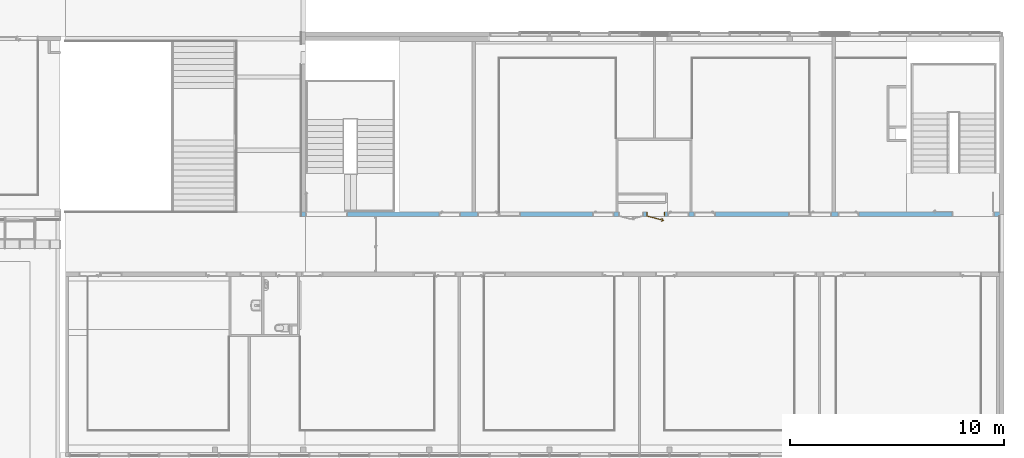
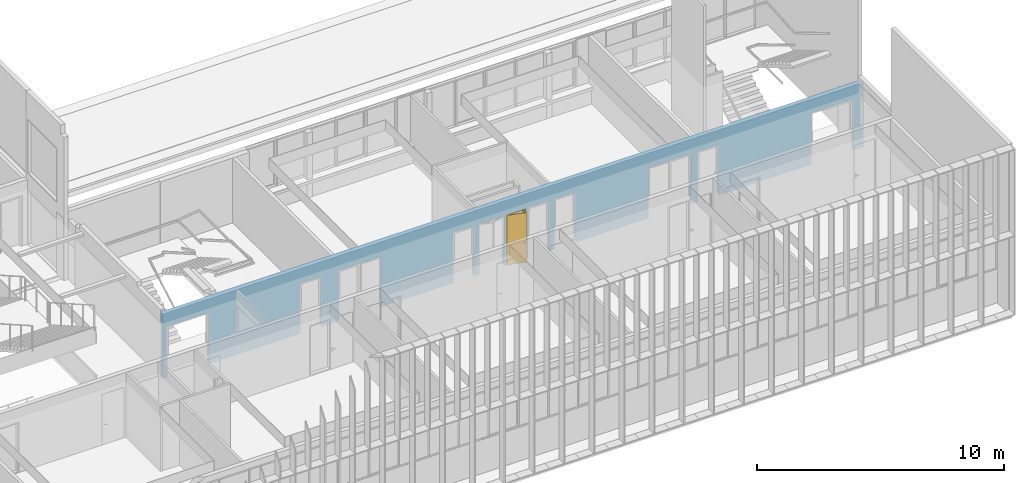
# One storey, part 88 of 106: 1 door, 13 openings, plus 1 element that does not belong to this part.
"""IFC2X3 building model written with IfcOpenShell, lengths in centimetres."""

import ifcopenshell
import ifcopenshell.guid

model = None  # the IFC model being written
_history = None  # IfcOwnerHistory: only IFC2X3 demands one
_inside = {}  # id of a spatial element -> (the spatial element, [elements in it])
_under = {}  # id of a project, library or spatial element -> (it, [spatial elements below it])
_declared = {}  # id of a project -> (the project, [libraries it declares])
_typed = {}  # id of a type object -> (the type object, [elements of that type])
_made_of = {}  # id of a material, layer set ... -> (it, [elements and type objects made of it])


def new_model(schema):
    """Start an empty IFC model of exactly this schema.

    Asked for "IFC4X3", IfcOpenShell would pick the latest addendum, in which some entities
    have other attributes; the version numbers below select the first issue.
    IFC2X3 requires an IfcOwnerHistory on every rooted entity: one is made here for all.
    """
    global model, _history
    if schema == "IFC4X3":
        model = ifcopenshell.file(schema_version=(4, 3, 0, 0))
    else:
        model = ifcopenshell.file(schema=schema)
    _inside.clear()
    _under.clear()
    _declared.clear()
    _typed.clear()
    _made_of.clear()
    _history = None
    if model.schema == "IFC2X3":
        org = make("IfcOrganization", Name="unknown")
        user = make(
            "IfcPersonAndOrganization",
            ThePerson=make("IfcPerson", FamilyName="unknown"),
            TheOrganization=org,
        )
        app = make(
            "IfcApplication",
            ApplicationDeveloper=org,
            Version="unknown",
            ApplicationFullName="unknown",
            ApplicationIdentifier="unknown",
        )
        _history = make(
            "IfcOwnerHistory",
            OwningUser=user,
            OwningApplication=app,
            ChangeAction="ADDED",
            CreationDate=0,
        )
    return model


def make(cls, **values):
    """One entity of the class cls with the attributes given. An attribute that is None is left unset."""
    return model.create_entity(
        cls, **{name: value for name, value in values.items() if value is not None}
    )


def entity(cls, *values):
    """Any entity or typed value of the class cls, its attributes in the order of the schema. None: left unset."""
    e = model.create_entity(cls)
    for i, value in enumerate(values):
        if value is not None:
            e[i] = value
    return e


def rooted(cls, **values):
    """An entity with a GlobalId (a new one), such as an element, a storey or a relation."""
    return make(cls, GlobalId=ifcopenshell.guid.new(), OwnerHistory=_history, **values)


def si_unit(unit_type, name, prefix=None):
    """IfcSIUnit, for example si_unit("LENGTHUNIT", "METRE", prefix="MILLI")."""
    return make("IfcSIUnit", UnitType=unit_type, Prefix=prefix, Name=name)


def converted_unit(unit_type, name, factor, base, dimensions=None, offset=None):
    """IfcConversionBasedUnit, such as the inch: factor (a typed value) times the base unit."""
    return make(
        "IfcConversionBasedUnit"
        if offset is None
        else "IfcConversionBasedUnitWithOffset",
        ConversionOffset=offset,
        Dimensions=None
        if dimensions is None
        else entity("IfcDimensionalExponents", *dimensions),
        UnitType=unit_type,
        Name=name,
        ConversionFactor=make(
            "IfcMeasureWithUnit", ValueComponent=factor, UnitComponent=base
        ),
    )


def derived_unit(unit_type, elements):
    """IfcDerivedUnit: a product of units, each with its exponent."""
    return make(
        "IfcDerivedUnit",
        Elements=[
            make("IfcDerivedUnitElement", Unit=unit, Exponent=power)
            for unit, power in elements
        ],
        UnitType=unit_type,
    )


def assignment(units):
    """IfcUnitAssignment: the units of a project."""
    return None if units is None else make("IfcUnitAssignment", Units=units)


def point(xyz):
    """IfcCartesianPoint."""
    return None if xyz is None else make("IfcCartesianPoint", Coordinates=xyz)


def direction(xyz):
    """IfcDirection."""
    return None if xyz is None else make("IfcDirection", DirectionRatios=xyz)


def frame(location, z_axis=None, x_axis=None):
    """IfcAxis2Placement3D, a coordinate frame: its origin and axes. An axis left out is left unset."""
    return make(
        "IfcAxis2Placement3D",
        Location=point(location),
        Axis=direction(z_axis),
        RefDirection=direction(x_axis),
    )


def frame_2d(location, x_axis=None):
    """IfcAxis2Placement2D, a coordinate frame in the plane: its origin and x axis."""
    return make(
        "IfcAxis2Placement2D", Location=point(location), RefDirection=direction(x_axis)
    )


def origin():
    """The frame at (0, 0, 0) with its axes left unset."""
    return frame((0.0, 0.0, 0.0))


def place(relative_to, where):
    """IfcLocalPlacement: puts the frame where relative to a parent placement (None: the world)."""
    return make(
        "IfcLocalPlacement", PlacementRelTo=relative_to, RelativePlacement=where
    )


def context(
    kind, dimensions, precision=None, world=None, true_north=None, identifier=None
):
    """IfcGeometricRepresentationContext, for example the 3D "Model" context."""
    return make(
        "IfcGeometricRepresentationContext",
        ContextIdentifier=identifier,
        ContextType=kind,
        CoordinateSpaceDimension=dimensions,
        Precision=precision,
        WorldCoordinateSystem=world,
        TrueNorth=true_north,
    )


def subcontext(parent, identifier, kind, view, scale=None):
    """IfcGeometricRepresentationSubContext, for example "Body" below "Model"."""
    return make(
        "IfcGeometricRepresentationSubContext",
        ContextIdentifier=identifier,
        ContextType=kind,
        ParentContext=parent,
        TargetScale=scale,
        TargetView=view,
    )


def project(units=None, contexts=None):
    """IfcProject with its units and contexts."""
    return rooted(
        "IfcProject",
        Name="project",
        RepresentationContexts=contexts,
        UnitsInContext=assignment(units),
    )


def spatial(cls, under=None, at=None, **own):
    """A site, building, storey or space (cls), placed at a placement, below another one or the project."""
    s = rooted(cls, ObjectPlacement=at, **own)
    if under is not None:
        _under.setdefault(under.id(), (under, []))[1].append(s)
    return s


def polyline(points):
    """IfcPolyline through the points."""
    return make("IfcPolyline", Points=[point(p) for p in points])


def profile(cls, at=None, kind="AREA", **sizes):
    """A parametric profile (cls). Its sizes go by their IFC names, for example OverallWidth=200.0."""
    return make(cls, ProfileType=kind, Position=at, **sizes)


def rectangle(**sizes):
    """IfcRectangleProfileDef."""
    return profile("IfcRectangleProfileDef", **sizes)


def extrude(swept, where, along, depth):
    """IfcExtrudedAreaSolid: the profile swept, set in the frame where, extruded along a direction by depth."""
    return make(
        "IfcExtrudedAreaSolid",
        SweptArea=swept,
        Position=where,
        ExtrudedDirection=direction(along),
        Depth=depth,
    )


def clip(a, b, op="DIFFERENCE"):
    """IfcBooleanClippingResult: the solid a cut by the half space b."""
    return make(
        "IfcBooleanClippingResult", Operator=op, FirstOperand=a, SecondOperand=b
    )


def bounded_halfspace(plane, agree, where, boundary):
    """IfcPolygonalBoundedHalfSpace: a half space limited to a polygon's prism."""
    return make(
        "IfcPolygonalBoundedHalfSpace",
        BaseSurface=make("IfcPlane", Position=plane),
        AgreementFlag=agree,
        Position=where,
        PolygonalBoundary=boundary,
    )


def faces_of(points, faces, orient=None, outer=None):
    """IfcFace entities. A face is a list of loops; a loop is a list of indices into points, from 0.

    orient and outer hold one flag for each loop. By default every Orientation is true, the
    first loop of a face is its IfcFaceOuterBound and the others are IfcFaceBound.
    """
    made = []
    for i, loops in enumerate(faces):
        bounds = []
        for j, loop in enumerate(loops):
            is_outer = j == 0 if outer is None else outer[i][j]
            bounds.append(
                make(
                    "IfcFaceOuterBound" if is_outer else "IfcFaceBound",
                    Bound=make("IfcPolyLoop", Polygon=[points[k] for k in loop]),
                    Orientation=True if orient is None else orient[i][j],
                )
            )
        made.append(make("IfcFace", Bounds=bounds))
    return made


def faceted_brep(points, faces, orient=None, outer=None, voids=None):
    """IfcFacetedBrep: a solid bounded by flat faces; with voids (closed shells), ...WithVoids."""
    shared = [point(p) for p in points]
    hull = make("IfcClosedShell", CfsFaces=faces_of(shared, faces, orient, outer))
    if voids is None:
        return make("IfcFacetedBrep", Outer=hull)
    return make(
        "IfcFacetedBrepWithVoids",
        Outer=hull,
        Voids=[
            make(cls, CfsFaces=faces_of(shared, fs, o, b)) for cls, fs, o, b in voids
        ],
    )


def shape(context_of_items, identifier, shape_type, items):
    """IfcShapeRepresentation: the items that make up one representation, for example the "Body"."""
    return make(
        "IfcShapeRepresentation",
        ContextOfItems=context_of_items,
        RepresentationIdentifier=identifier,
        RepresentationType=shape_type,
        Items=items,
    )


def source(mapping_origin, context_of_items, identifier, shape_type, items):
    """IfcRepresentationMap: a shape defined once, which mapped items show again and again."""
    return make(
        "IfcRepresentationMap",
        MappingOrigin=mapping_origin,
        MappedRepresentation=shape(context_of_items, identifier, shape_type, items),
    )


def transform(
    local_origin,
    x_axis=None,
    y_axis=None,
    z_axis=None,
    scale=None,
    scale2=None,
    scale3=None,
    uniform=True,
):
    """IfcCartesianTransformationOperator3D, or its non-uniform kind. x_axis, y_axis, z_axis: its Axis1, 2, 3."""
    if uniform:
        return make(
            "IfcCartesianTransformationOperator3D",
            Axis1=direction(x_axis),
            Axis2=direction(y_axis),
            LocalOrigin=point(local_origin),
            Scale=scale,
            Axis3=direction(z_axis),
        )
    return make(
        "IfcCartesianTransformationOperator3DnonUniform",
        Axis1=direction(x_axis),
        Axis2=direction(y_axis),
        LocalOrigin=point(local_origin),
        Scale=scale,
        Axis3=direction(z_axis),
        Scale2=scale2,
        Scale3=scale3,
    )


def mapped(mapping_source, mapping_target):
    """IfcMappedItem: shows the shape of a source again, moved by a transform."""
    return make(
        "IfcMappedItem", MappingSource=mapping_source, MappingTarget=mapping_target
    )


def material(Name=None, Category=None):
    """IfcMaterial."""
    return make("IfcMaterial", Name=Name, Category=Category)


def material_list(materials):
    """IfcMaterialList."""
    return make("IfcMaterialList", Materials=materials)


def layer(
    of_material, thickness, ventilated=None, Name=None, Category=None, Priority=None
):
    """IfcMaterialLayer: one layer of a wall or slab, of a material (None: an air gap)."""
    return make(
        "IfcMaterialLayer",
        Material=of_material,
        LayerThickness=thickness,
        IsVentilated=ventilated,
        Name=Name,
        Category=Category,
        Priority=Priority,
    )


def layer_set(layers, Name=None):
    """IfcMaterialLayerSet."""
    return make("IfcMaterialLayerSet", MaterialLayers=layers, LayerSetName=Name)


def layer_usage(for_layer_set, set_direction, sense, offset, extent=None):
    """IfcMaterialLayerSetUsage: how a layer set lies in its element."""
    return make(
        "IfcMaterialLayerSetUsage",
        ForLayerSet=for_layer_set,
        LayerSetDirection=set_direction,
        DirectionSense=sense,
        OffsetFromReferenceLine=offset,
        ReferenceExtent=extent,
    )


def made_of(thing, what):
    """Note that an element or type object is made of a material, layer set ...; save() writes the relation."""
    if what is not None:
        _made_of.setdefault(what.id(), (what, []))[1].append(thing)
    return thing


def type_object(cls, material=None, **own):
    """A type object (cls), such as IfcWallType, which elements share."""
    return made_of(rooted(cls, **own), material)


def type_shapes(of_type, sources):
    """Give a type object the sources (RepresentationMaps) that its elements show as mapped items."""
    of_type.RepresentationMaps = sources


def element(
    cls,
    number,
    at=None,
    inside=None,
    cuts=None,
    type_object=None,
    material=None,
    context=None,
    identifier="Body",
    shape_type=None,
    held_by="IfcProductDefinitionShape",
    body=None,
    shapes=None,
    **own,
):
    """One element of the class cls, such as IfcWall. Its Tag is "e" and its number.

    at: its placement. inside: the storey or other place that contains it. cuts: it is an
    opening in that element (IfcRelVoidsElement). A single representation is given by context,
    identifier, shape_type and body (its items); several are given by shapes. held_by: the class
    of the entity that holds the representations. save() writes the other relations.
    """
    e = rooted(cls, Tag="e%d" % number, ObjectPlacement=at, **own)
    if body is not None:
        shapes = [shape(context, identifier, shape_type, body)]
    if shapes is not None:
        e.Representation = make(held_by, Representations=shapes)
    if inside is not None:
        _inside.setdefault(inside.id(), (inside, []))[1].append(e)
    if cuts is not None:
        rooted(
            "IfcRelVoidsElement", RelatingBuildingElement=cuts, RelatedOpeningElement=e
        )
    if type_object is not None:
        _typed.setdefault(type_object.id(), (type_object, []))[1].append(e)
    return made_of(e, material)


def fill(opening, filler):
    """IfcRelFillsElement: the door or window that sits in an opening."""
    return rooted(
        "IfcRelFillsElement",
        RelatingOpeningElement=opening,
        RelatedBuildingElement=filler,
    )


def aggregate(whole, parts):
    """IfcRelAggregates: a whole, such as a stair, and the parts it consists of."""
    return rooted("IfcRelAggregates", RelatingObject=whole, RelatedObjects=parts)


def save(model, path):
    """Write the relations noted so far, then the file.

    IfcRelAggregates (storeys below a building ...), IfcRelContainedInSpatialStructure (elements
    in a storey), IfcRelDefinesByType, IfcRelAssociatesMaterial and IfcRelDeclares: one each for
    every whole, place, type object, material and project.
    """
    for whole, parts in _under.values():
        aggregate(whole, parts)
    for where, things in _inside.values():
        rooted(
            "IfcRelContainedInSpatialStructure",
            RelatedElements=things,
            RelatingStructure=where,
        )
    for kind, things in _typed.values():
        rooted("IfcRelDefinesByType", RelatedObjects=things, RelatingType=kind)
    for what, things in _made_of.values():
        rooted("IfcRelAssociatesMaterial", RelatedObjects=things, RelatingMaterial=what)
    for by, libraries in _declared.values():
        rooted("IfcRelDeclares", RelatingContext=by, RelatedDefinitions=libraries)
    model.write(path)


model = new_model("IFC2X3")

# Units and contexts
model_context = context("Model", 3, precision=0.001, world=origin(), true_north=direction((6.12303176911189e-17, 1.0)))
body_context = subcontext(model_context, "Body", "Model", "MODEL_VIEW")
ifc_project = project(units=[si_unit("LENGTHUNIT", "METRE", prefix="CENTI"), si_unit("AREAUNIT", "SQUARE_METRE"), si_unit("VOLUMEUNIT", "CUBIC_METRE"), converted_unit("PLANEANGLEUNIT", "DEGREE", entity("IfcRatioMeasure", 0.0174532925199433), si_unit("PLANEANGLEUNIT", "RADIAN"), dimensions=[0, 0, 0, 0, 0, 0, 0]), si_unit("MASSUNIT", "GRAM", prefix="KILO"), derived_unit("MASSDENSITYUNIT", [(si_unit("MASSUNIT", "GRAM", prefix="KILO"), 1), (si_unit("LENGTHUNIT", "METRE"), -3)]), si_unit("TIMEUNIT", "SECOND"), si_unit("FREQUENCYUNIT", "HERTZ"), si_unit("THERMODYNAMICTEMPERATUREUNIT", "DEGREE_CELSIUS"), derived_unit("THERMALTRANSMITTANCEUNIT", [(si_unit("MASSUNIT", "GRAM", prefix="KILO"), 1), (si_unit("THERMODYNAMICTEMPERATUREUNIT", "KELVIN"), -1), (si_unit("TIMEUNIT", "SECOND"), -3)]), derived_unit("VOLUMETRICFLOWRATEUNIT", [(si_unit("LENGTHUNIT", "METRE"), 3), (si_unit("TIMEUNIT", "SECOND"), -1)]), si_unit("ELECTRICCURRENTUNIT", "AMPERE"), si_unit("ELECTRICVOLTAGEUNIT", "VOLT"), si_unit("POWERUNIT", "WATT"), si_unit("FORCEUNIT", "NEWTON", prefix="KILO"), si_unit("ILLUMINANCEUNIT", "LUX"), si_unit("LUMINOUSFLUXUNIT", "LUMEN"), si_unit("LUMINOUSINTENSITYUNIT", "CANDELA"), derived_unit("USERDEFINED", [(si_unit("MASSUNIT", "GRAM", prefix="KILO"), -1), (si_unit("LENGTHUNIT", "METRE"), -2), (si_unit("TIMEUNIT", "SECOND"), 3), (si_unit("LUMINOUSFLUXUNIT", "LUMEN"), 1)]), derived_unit("LINEARVELOCITYUNIT", [(si_unit("LENGTHUNIT", "METRE"), 1), (si_unit("TIMEUNIT", "SECOND"), -1)]), si_unit("PRESSUREUNIT", "PASCAL"), derived_unit("USERDEFINED", [(si_unit("LENGTHUNIT", "METRE"), -2), (si_unit("MASSUNIT", "GRAM", prefix="KILO"), 1), (si_unit("TIMEUNIT", "SECOND"), -2)])], contexts=[model_context])

# Site, building, storey
site_placement = place(None, frame((-2781.94577612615, 7442.24238424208, 0.0)))
site = spatial("IfcSite", under=ifc_project, at=site_placement, Name="Default", CompositionType="ELEMENT")
building_placement = place(site_placement, origin())
building = spatial("IfcBuilding", under=site, at=building_placement, CompositionType="ELEMENT")
storey_placement = place(building_placement, frame((0.0, 0.0, 422.0)))
storey = spatial("IfcBuildingStorey", under=building, at=storey_placement, Name="Toiture - Cuisine", CompositionType="ELEMENT", Elevation=421.999999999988)

# Wall, openings, door
ifc_material_1 = material(Name="01 - Maçonnerie")
ifc_layer = layer(ifc_material_1, 20.0)
ifc_layer_set = layer_set([ifc_layer], Name="Mur de base:04 - Structure - béton - 20cm")
ifc_layer_usage = layer_usage(ifc_layer_set, "AXIS2", "NEGATIVE", 10.0)
wall_type = type_object("IfcWallType", Name="Mur de base:04 - Structure - béton - 20cm", PredefinedType="STANDARD", material=ifc_layer_set)
wall_placement = place(building_placement, frame((-3667.99987968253, -1920.07903364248, 422.0)))
wall = element("IfcWallStandardCase", 1, at=wall_placement, inside=storey, type_object=wall_type, material=ifc_layer_usage, Name="Mur de base:04 - Structure - béton - 20cm", ObjectType="Mur de base:04 - Structure - béton - 20cm", context=body_context, shape_type="Clipping", body=[
    clip(clip(extrude(rectangle(XDim=3277.99999684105, YDim=19.9999999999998, at=frame_2d((1638.99999842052, 6.21724893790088e-14), x_axis=(-1.0, 0.0))), origin(), (0.0, 0.0, 1.0), 321.0), bounded_halfspace(frame((0.0, -10.0, 321.0), z_axis=(0.0, 0.0, -1.0), x_axis=(0.0, 1.0, 0.0)), True, frame((0.0, -10.0, 321.0)), polyline([(0.0, 0.0), (20.0, 0.0), (20.0, 20.0), (0.0, 20.0), (0.0, 0.0)]))), bounded_halfspace(frame((458.699996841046, -10.0, 321.0), z_axis=(0.0, 0.0, -1.0), x_axis=(0.0, 1.0, 0.0)), True, frame((458.699996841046, -10.0, 321.0)), polyline([(0.0, 0.0), (2797.3, 0.0), (2799.29999999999, 0.0), (2799.29999999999, 10.0), (2799.29999999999, 20.0), (2034.0, 20.0), (2018.0, 20.0), (1914.0, 20.0), (1912.0, 20.0), (1363.8, 20.0), (1353.8, 20.0), (1249.8, 20.0), (1239.8, 20.0), (1149.8, 20.0), (1139.8, 20.0), (1019.8, 20.0), (1009.8, 20.0), (466.0, 20.0), (464.0, 20.0), (0.0, 20.0), (0.0, 0.0)]))),
])
opening_1_placement = place(wall_placement, frame((2502.69999684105, -10.0, 0.0)))
element("IfcOpeningElement", 2, at=opening_1_placement, cuts=wall, Name="Int. Simple:PP simple (0.93m x 2.50m):1", ObjectType="Opening", context=body_context, shape_type="SweptSolid", body=[
    extrude(rectangle(XDim=248.500000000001, YDim=99.9999999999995, at=frame_2d((124.250000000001, 49.9999999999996), x_axis=(1.0, 0.0))), frame((0.0, 0.0, 0.0), z_axis=(0.0, 1.0, 0.0), x_axis=(0.0, 0.0, 1.0)), (0.0, 0.0, 1.0), 20.0),
])
opening_2_placement = place(wall_placement, frame((2372.69999684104, -10.0, 0.0)))
element("IfcOpeningElement", 3, at=opening_2_placement, cuts=wall, Name="Int. Simple:PV (0.93m x 2.50m):1", ObjectType="Opening", context=body_context, shape_type="SweptSolid", body=[
    extrude(rectangle(XDim=248.500000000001, YDim=99.9999999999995, at=frame_2d((124.250000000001, 49.9999999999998), x_axis=(1.0, 0.0))), frame((0.0, 0.0, 0.0), z_axis=(0.0, 1.0, 0.0), x_axis=(0.0, 0.0, 1.0)), (0.0, 0.0, 1.0), 20.0),
])
opening_3_placement = place(wall_placement, frame((1832.49999684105, -10.0, 0.0)))
element("IfcOpeningElement", 4, at=opening_3_placement, cuts=wall, Name="Int. Simple:PV (0.93m x 2.50m):1", ObjectType="Opening", context=body_context, shape_type="SweptSolid", body=[
    extrude(rectangle(XDim=248.500000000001, YDim=99.9999999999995, at=frame_2d((124.250000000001, 49.9999999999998), x_axis=(1.0, 0.0))), frame((0.0, 0.0, 0.0), z_axis=(0.0, 1.0, 0.0), x_axis=(0.0, 0.0, 1.0)), (0.0, 0.0, 1.0), 20.0),
])
opening_4_placement = place(wall_placement, frame((1708.49999684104, -10.0, 0.0)))
element("IfcOpeningElement", 5, at=opening_4_placement, cuts=wall, Name="Int. Simple:PP simple (0.93m x 2.50m):1", ObjectType="Opening", context=body_context, shape_type="SweptSolid", body=[
    extrude(rectangle(XDim=248.500000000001, YDim=99.9999999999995, at=frame_2d((124.250000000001, 49.9999999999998), x_axis=(1.0, 0.0))), frame((0.0, 0.0, 0.0), z_axis=(0.0, 1.0, 0.0), x_axis=(0.0, 0.0, 1.0)), (0.0, 0.0, 1.0), 20.0),
])
opening_5_placement = place(wall_placement, frame((1358.49999684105, -10.0, 0.0)))
element("IfcOpeningElement", 6, at=opening_5_placement, cuts=wall, Name="Int. Simple:PV (0.93m x 2.50m):1", ObjectType="Opening", context=body_context, shape_type="SweptSolid", body=[
    extrude(rectangle(XDim=248.500000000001, YDim=99.9999999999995, at=frame_2d((124.250000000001, 49.9999999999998), x_axis=(1.0, 0.0))), frame((0.0, 0.0, 0.0), z_axis=(0.0, 1.0, 0.0), x_axis=(0.0, 0.0, 1.0)), (0.0, 0.0, 1.0), 20.0),
])
opening_6_placement = place(wall_placement, frame((822.699996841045, -10.0, 0.0)))
element("IfcOpeningElement", 7, at=opening_6_placement, cuts=wall, Name="Int. Simple:PV (0.93m x 2.50m):1", ObjectType="Opening", context=body_context, shape_type="SweptSolid", body=[
    extrude(rectangle(XDim=248.500000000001, YDim=99.9999999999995, at=frame_2d((124.250000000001, 49.9999999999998), x_axis=(1.0, 0.0))), frame((0.0, 0.0, 0.0), z_axis=(0.0, 1.0, 0.0), x_axis=(0.0, 0.0, 1.0)), (0.0, 0.0, 1.0), 20.0),
])
opening_7_placement = place(wall_placement, frame((642.699996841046, -10.0, 0.0)))
element("IfcOpeningElement", 8, at=opening_7_placement, cuts=wall, Name="Int. Simple:PP simple (0.93m x 2.50m):1", ObjectType="Opening", context=body_context, shape_type="SweptSolid", body=[
    extrude(rectangle(XDim=248.500000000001, YDim=99.9999999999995, at=frame_2d((124.250000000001, 49.9999999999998), x_axis=(1.0, 0.0))), frame((0.0, 0.0, 0.0), z_axis=(0.0, 1.0, 0.0), x_axis=(0.0, 0.0, 1.0)), (0.0, 0.0, 1.0), 20.0),
])
opening_8_placement = place(wall_placement, frame((2272.69999684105, -10.0, 0.0)))
element("IfcOpeningElement", 9, at=opening_8_placement, cuts=wall, Name="châssis intérieur vitré:châssis intérieur vitré (h=270) R+1:1", ObjectType="Opening", context=body_context, shape_type="SweptSolid", body=[
    extrude(rectangle(XDim=250.0, YDim=99.9999999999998, at=frame_2d((125.0, 49.9999999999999), x_axis=(1.0, 0.0))), frame((0.0, 0.0, 0.0), z_axis=(0.0, 1.0, 0.0), x_axis=(0.0, 0.0, 1.0)), (0.0, 0.0, 1.0), 20.0),
])
opening_9_placement = place(wall_placement, frame((922.699996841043, -10.0, 0.0)))
element("IfcOpeningElement", 10, at=opening_9_placement, cuts=wall, Name="châssis intérieur vitré:châssis intérieur vitré (h=270) R+1:1", ObjectType="Opening", context=body_context, shape_type="SweptSolid", body=[
    extrude(rectangle(XDim=250.0, YDim=99.9999999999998, at=frame_2d((125.0, 49.9999999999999), x_axis=(1.0, 0.0))), frame((0.0, 0.0, 0.0), z_axis=(0.0, 1.0, 0.0), x_axis=(0.0, 0.0, 1.0)), (0.0, 0.0, 1.0), 20.0),
])
opening_10_placement = place(wall_placement, frame((1697.0, 10.0, 0.0)))
opening_10 = element("IfcOpeningElement", 11, at=opening_10_placement, cuts=wall, Name="Int. Simple:PP Placard (0.80m x 2.50m):1", ObjectType="Opening", context=body_context, shape_type="SweptSolid", body=[
    extrude(rectangle(XDim=248.500000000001, YDim=86.9999999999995, at=frame_2d((124.250000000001, 43.4999999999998), x_axis=(1.0, 0.0))), frame((0.0, 0.0, 0.0), z_axis=(0.0, -1.0, 0.0), x_axis=(0.0, 0.0, 1.0)), (0.0, 0.0, 1.0), 20.0),
])
opening_11_placement = place(wall_placement, frame((1597.0, 10.0, 0.0)))
element("IfcOpeningElement", 12, at=opening_11_placement, cuts=wall, Name="Int. Double:PP Placard (1.10m x 2.50m):1", ObjectType="Opening", context=body_context, shape_type="SweptSolid", body=[
    extrude(rectangle(XDim=248.500000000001, YDim=117.0, at=frame_2d((124.250000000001, 58.5000000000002), x_axis=(1.0, 0.0))), frame((0.0, 0.0, 0.0), z_axis=(0.0, -1.0, 0.0), x_axis=(0.0, 0.0, 1.0)), (0.0, 0.0, 1.0), 20.0),
])
opening_12_placement = place(wall_placement, frame((3035.69999684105, -10.0, 0.0)))
element("IfcOpeningElement", 13, at=opening_12_placement, cuts=wall, Name="Int. Double:PP (1.90m x 2.50m):1", ObjectType="Opening", context=body_context, shape_type="SweptSolid", body=[
    extrude(rectangle(XDim=253.500000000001, YDim=197.0, at=frame_2d((126.750000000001, 98.5000000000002), x_axis=(1.0, 0.0))), frame((0.0, 0.0, 0.0), z_axis=(0.0, 1.0, 0.0), x_axis=(0.0, 0.0, 1.0)), (0.0, 0.0, 1.0), 20.0),
])
opening_13_placement = place(wall_placement, frame((20.0, -10.0, 0.0)))
element("IfcOpeningElement", 14, at=opening_13_placement, cuts=wall, Name="Int. Double:PP (1.90m x 2.50m):1", ObjectType="Opening", context=body_context, shape_type="SweptSolid", body=[
    extrude(rectangle(XDim=253.500000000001, YDim=197.0, at=frame_2d((126.750000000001, 98.5), x_axis=(1.0, 0.0))), frame((0.0, 0.0, 0.0), z_axis=(0.0, 1.0, 0.0), x_axis=(0.0, 0.0, 1.0)), (0.0, 0.0, 1.0), 20.0),
])
ifc_material_2 = material(Name="Finition Peinture - Blanc satiné")
ifc_material_3 = material(Name="Bois - Panneau de porte")
ifc_material_4 = material(Name="Bois - Cadre de porte")
ifc_material_list_1 = material_list([ifc_material_2, ifc_material_3, ifc_material_4])
ifc_material_list_2 = material_list([ifc_material_2, ifc_material_3, ifc_material_4])
door_style = type_object("IfcDoorStyle", Name="PP Placard (0.80m x 2.50m)", ConstructionType="NOTDEFINED", OperationType="SINGLE_SWING_RIGHT", ParameterTakesPrecedence=False, Sizeable=False, material=ifc_material_list_2)
shared_shape = source(origin(), body_context, "Body", "Brep", [
    faceted_brep([(83.7809532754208, -20.1532103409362, 87.0), (83.7809532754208, -20.1532103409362, 108.0), (82.8491016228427, -19.9035214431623, 108.399601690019), (81.8491016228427, -19.6355722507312, 108.535898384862), (80.8491016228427, -19.3676230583, 108.399601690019), (79.9172499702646, -19.1179341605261, 108.0), (79.9172499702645, -19.1179341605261, 87.0), (80.8491016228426, -19.3676230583, 86.6003983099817), (81.8491016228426, -19.6355722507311, 86.464101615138), (82.8491016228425, -19.9035214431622, 86.6003983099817), (83.910362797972, -19.6702474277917, 108.0), (83.9103627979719, -19.6702474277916, 87.0), (82.9785111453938, -19.4205585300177, 86.6003983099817), (81.9785111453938, -19.1526093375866, 86.464101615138), (80.9785111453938, -18.8846601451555, 86.6003983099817), (80.0466594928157, -18.6349712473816, 87.0), (80.0466594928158, -18.6349712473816, 108.0), (80.978511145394, -18.8846601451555, 108.399601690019), (81.9785111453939, -19.1526093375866, 108.535898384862), (82.9785111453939, -19.4205585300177, 108.399601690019)], [[[0, 1, 2, 3, 4, 5, 6, 7, 8, 9]], [[10, 11, 12, 13, 14, 15, 16, 17, 18, 19]], [[9, 12, 11, 0]], [[8, 13, 12, 9]], [[7, 14, 13, 8]], [[7, 6, 15, 14]], [[15, 6, 5, 16]], [[4, 17, 16, 5]], [[3, 18, 17, 4]], [[2, 19, 18, 3]], [[2, 1, 10, 19]], [[11, 10, 1, 0]]]),
    faceted_brep([(84.9456389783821, -15.8065441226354, 87.0), (84.9456389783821, -15.8065441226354, 108.0), (84.013787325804, -15.5568552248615, 108.399601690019), (83.013787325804, -15.2889060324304, 108.535898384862), (82.0137873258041, -15.0209568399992, 108.399601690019), (81.0819356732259, -14.7712679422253, 108.0), (81.0819356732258, -14.7712679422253, 87.0), (82.0137873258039, -15.0209568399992, 86.6003983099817), (83.0137873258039, -15.2889060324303, 86.464101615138), (84.0137873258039, -15.5568552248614, 86.6003983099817), (83.1431968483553, -14.8059431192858, 108.535898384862), (84.1431968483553, -15.0738923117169, 108.399601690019), (85.0750485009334, -15.3235812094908, 108.0), (85.0750485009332, -15.3235812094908, 87.0), (84.1431968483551, -15.0738923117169, 86.6003983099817), (83.1431968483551, -14.8059431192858, 86.464101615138), (82.1431968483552, -14.5379939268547, 86.6003983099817), (81.211345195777, -14.2883050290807, 87.0), (81.2113451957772, -14.2883050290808, 108.0), (82.1431968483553, -14.5379939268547, 108.399601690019)], [[[0, 1, 2, 3, 4, 5, 6, 7, 8, 9]], [[10, 11, 12, 13, 14, 15, 16, 17, 18, 19]], [[4, 19, 18, 5]], [[3, 10, 19, 4]], [[2, 11, 10, 3]], [[2, 1, 12, 11]], [[13, 12, 1, 0]], [[9, 14, 13, 0]], [[8, 15, 14, 9]], [[7, 16, 15, 8]], [[7, 6, 17, 16]], [[17, 6, 5, 18]]]),
    faceted_brep([(81.6534727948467, -19.5831536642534, 100.778044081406), (82.0447304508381, -19.6879908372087, 100.778044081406), (82.4286571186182, -19.7908636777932, 100.699999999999), (82.4286571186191, -19.7908636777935, 99.2999999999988), (82.0447304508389, -19.687990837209, 99.221955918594), (81.6534727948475, -19.5831536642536, 99.2219559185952), (81.2695461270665, -19.4802808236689, 99.3000000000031), (81.2695461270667, -19.4802808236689, 100.7), (81.3716825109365, -22.1998399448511, 100.778044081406), (81.7129978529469, -22.4617404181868, 100.7), (81.0238498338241, -21.9329385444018, 100.778044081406), (79.3488766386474, -22.8999847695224, 100.778044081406), (79.4061036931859, -23.3346674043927, 100.778044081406), (80.682534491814, -21.6710380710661, 100.7), (80.6825344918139, -21.671038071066, 99.3000000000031), (81.0238498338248, -21.9329385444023, 99.2219559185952), (81.3716825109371, -22.1998399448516, 99.221955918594), (79.406103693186, -23.3346674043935, 99.221955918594), (79.3488766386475, -22.8999847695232, 99.2219559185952), (81.7129978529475, -22.4617404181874, 99.2999999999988), (79.4622584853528, -23.7612053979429, 100.7), (79.2927218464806, -22.4734467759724, 100.7), (79.2927218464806, -22.4734467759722, 99.3000000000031), (79.4622584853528, -23.7612053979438, 99.2999999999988), (70.9967463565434, -21.4928782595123, 100.7), (71.0996191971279, -21.1089515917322, 100.778044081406), (71.2044563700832, -20.7176939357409, 100.778044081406), (71.3073292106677, -20.3337672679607, 100.699999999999), (71.3073292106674, -20.3337672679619, 99.3000000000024), (71.204456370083, -20.7176939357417, 99.2219559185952), (71.0996191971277, -21.108951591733, 99.221955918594), (70.9967463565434, -21.4928782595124, 99.2999999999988), (75.2242479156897, -22.0044681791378, 100.78786867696), (75.6052695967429, -22.727728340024, 100.7), (75.3000255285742, -21.4036070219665, 100.7), (75.3000255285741, -21.4036070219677, 99.3000000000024), (75.2242479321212, -22.0044681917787, 99.2121313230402), (75.6052703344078, -22.7277285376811, 99.2999999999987)], [[[0, 1, 2, 3, 4, 5, 6, 7]], [[2, 1, 8, 9]], [[1, 0, 10, 11, 12, 8]], [[0, 7, 13, 10]], [[14, 13, 7, 6]], [[5, 15, 14, 6]], [[5, 4, 16, 17, 18, 15]], [[3, 19, 16, 4]], [[9, 19, 3, 2]], [[9, 8, 12, 20]], [[10, 13, 21, 11]], [[22, 21, 13, 14]], [[14, 15, 18, 22]], [[16, 19, 23, 17]], [[20, 23, 19, 9]], [[24, 25, 26, 27, 28, 29, 30, 31]], [[32, 25, 33]], [[33, 25, 24]], [[33, 20, 12]], [[11, 34, 32]], [[34, 11, 21]], [[27, 26, 34]], [[32, 26, 25]], [[32, 34, 26]], [[32, 33, 12]], [[11, 32, 12]], [[21, 22, 35, 28, 27, 34]], [[36, 29, 35]], [[30, 36, 37]], [[18, 35, 22]], [[29, 28, 35]], [[30, 37, 31]], [[37, 17, 23]], [[36, 17, 37]], [[36, 18, 17]], [[36, 35, 18]], [[29, 36, 30]], [[23, 20, 33, 24, 31, 37]]]),
    faceted_brep([(82.9475680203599, -14.7535245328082, 99.2219559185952), (83.3388256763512, -14.8583617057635, 99.221955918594), (83.7227523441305, -14.9612345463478, 99.2999999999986), (83.7227523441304, -14.9612345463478, 100.7), (83.3388256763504, -14.8583617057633, 100.778044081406), (82.947568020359, -14.7535245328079, 100.778044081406), (82.5636413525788, -14.6506516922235, 100.7), (82.56364135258, -14.6506516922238, 99.3000000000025), (83.1456012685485, -12.4787477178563, 100.7), (83.1456012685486, -12.4787477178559, 99.3000000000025), (83.5721392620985, -12.4225929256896, 100.778044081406), (84.0068218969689, -12.365365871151, 100.778044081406), (82.8622711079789, -10.3829457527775, 100.778044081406), (82.5953697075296, -10.7307784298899, 100.778044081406), (84.4333598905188, -12.3092110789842, 100.7), (84.433359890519, -12.3092110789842, 99.2999999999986), (84.0068218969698, -12.3653658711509, 99.221955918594), (83.5721392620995, -12.4225929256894, 99.2219559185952), (82.5953697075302, -10.7307784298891, 99.2219559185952), (82.8622711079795, -10.3829457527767, 99.221955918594), (82.3334692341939, -11.0720937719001, 100.7), (82.3334692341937, -11.0720937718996, 99.3000000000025), (83.1241715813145, -10.0416304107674, 100.7), (83.1241715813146, -10.0416304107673, 99.2999999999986), (74.461609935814, -8.55134406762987, 100.778044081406), (74.5664471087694, -8.16008641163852, 100.778044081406), (74.6693199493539, -7.77615974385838, 100.7), (74.6693199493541, -7.77615974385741, 99.2999999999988), (74.5664471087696, -8.16008641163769, 99.221955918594), (74.4616099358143, -8.55134406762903, 99.2219559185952), (74.3587370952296, -8.93527073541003, 99.3000000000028), (74.3587370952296, -8.93527073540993, 100.7), (78.3461031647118, -10.003682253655, 100.7), (78.3461043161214, -10.0036825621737, 99.3000000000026), (78.5809084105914, -9.4454324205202, 100.78786867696), (79.2671827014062, -9.00815335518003, 100.7), (79.2671828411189, -9.00815339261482, 99.2999999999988), (78.5809083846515, -9.44543242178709, 99.2121313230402)], [[[0, 1, 2, 3, 4, 5, 6, 7]], [[8, 9, 7, 6]], [[5, 10, 8, 6]], [[5, 4, 11, 12, 13, 10]], [[3, 14, 11, 4]], [[14, 3, 2, 15]], [[2, 1, 16, 15]], [[1, 0, 17, 18, 19, 16]], [[0, 7, 9, 17]], [[20, 21, 9, 8]], [[8, 10, 13, 20]], [[14, 22, 12, 11]], [[23, 22, 14, 15]], [[15, 16, 19, 23]], [[17, 9, 21, 18]], [[24, 25, 26, 27, 28, 29, 30, 31]], [[21, 20, 32, 31, 30, 33]], [[34, 24, 32]], [[25, 34, 35]], [[13, 32, 20]], [[24, 31, 32]], [[25, 35, 26]], [[35, 12, 22]], [[34, 12, 35]], [[34, 13, 12]], [[34, 32, 13]], [[24, 34, 25]], [[22, 23, 36, 27, 26, 35]], [[37, 28, 36]], [[36, 28, 27]], [[36, 23, 19]], [[18, 33, 37]], [[33, 18, 21]], [[30, 29, 33]], [[37, 29, 28]], [[37, 33, 29]], [[37, 36, 19]], [[18, 37, 19]]]),
    faceted_brep([(88.8093422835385, -16.8418203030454, 245.0), (88.8093422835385, -16.8418203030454, 0.0), (11.535276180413, 3.86370330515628, 0.0), (11.535276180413, 3.86370330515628, 245.0), (87.7740661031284, -20.7055236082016, 245.0), (10.5000000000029, 0.0, 245.0), (10.5000000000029, 0.0, 0.0), (87.7740661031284, -20.7055236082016, 0.0)], [[[0, 1, 2, 3]], [[4, 5, 6, 7]], [[3, 5, 4, 0]], [[2, 6, 5, 3]], [[1, 7, 6, 2]], [[0, 4, 7, 1]]]),
    faceted_brep([(94.0, 20.0, 0.0), (94.0, 0.0, 0.0), (95.500000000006, 0.0, 0.0), (95.500000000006, -0.500000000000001, 0.0), (90.5000000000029, -0.500000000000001, 0.0), (90.5000000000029, 4.0, 0.0), (89.0, 4.0, 0.0), (89.0, 20.5000000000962, 0.0), (95.5000000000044, 20.5000000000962, 0.0), (95.5000000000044, 20.0, 0.0), (94.0, 20.0, 248.500000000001), (94.0, 0.0, 248.500000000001), (95.5000000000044, 20.0, 250.0), (5.50000000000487, 20.0, 250.0), (5.50000000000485, 20.0, 0.0), (7.0, 20.0, 0.0), (7.0, 20.0, 248.500000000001), (89.0, 4.0, 243.5), (89.0, 20.5000000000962, 243.5), (90.5000000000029, 4.0, 245.0), (10.5000000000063, 4.0, 245.0), (10.5000000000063, 4.0, 0.0), (12.0, 4.0, 0.0), (12.0, 4.0, 243.5), (7.0, 0.0, 0.0), (7.0, 0.0, 248.500000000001), (5.50000000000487, 20.5000000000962, 0.0), (12.0, 20.5000000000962, 0.0), (10.5000000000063, -0.500000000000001, 0.0), (5.5000000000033, -0.500000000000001, 0.0), (5.5000000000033, 0.0, 0.0), (12.0, 20.5000000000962, 243.5), (90.5000000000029, -0.500000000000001, 245.0), (95.500000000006, -0.500000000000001, 250.0), (5.5000000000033, -0.500000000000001, 250.0), (10.5000000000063, -0.500000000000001, 245.0), (95.500000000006, 0.0, 250.0), (5.5000000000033, 0.0, 250.0), (95.5000000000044, 20.5000000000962, 250.0), (5.50000000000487, 20.5000000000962, 250.0)], [[[0, 1, 2, 3, 4, 5, 6, 7, 8, 9]], [[0, 10, 11, 1]], [[9, 12, 13, 14, 15, 16, 10, 0]], [[7, 6, 17, 18]], [[5, 19, 20, 21, 22, 23, 17, 6]], [[16, 15, 24, 25]], [[15, 14, 26, 27, 22, 21, 28, 29, 30, 24]], [[23, 22, 27, 31]], [[10, 16, 25, 11]], [[17, 23, 31, 18]], [[5, 4, 32, 19]], [[3, 33, 34, 29, 28, 35, 32, 4]], [[2, 36, 33, 3]], [[1, 11, 25, 24, 30, 37, 36, 2]], [[8, 38, 12, 9]], [[7, 18, 31, 27, 26, 39, 38, 8]], [[35, 28, 21, 20]], [[37, 30, 29, 34]], [[39, 26, 14, 13]], [[32, 35, 20, 19]], [[36, 37, 34, 33]], [[38, 39, 13, 12]]]),
])
type_shapes(door_style, [shared_shape])
door_placement = place(opening_10_placement, frame((-94.000003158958, -20.0, 0.0)))
door = element("IfcDoor", 15, at=door_placement, inside=storey, type_object=door_style, material=ifc_material_list_1, Name="Int. Simple:PP Placard (0.80m x 2.50m)", ObjectType="Int. Simple:PP Placard (0.80m x 2.50m)", OverallHeight=248.500000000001, OverallWidth=86.9999999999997, context=body_context, shape_type="MappedRepresentation", body=[
    mapped(shared_shape, transform((0.0, 0.0, 0.0), scale=1.0)),
])
fill(opening_10, door)

save(model, "model.ifc")
